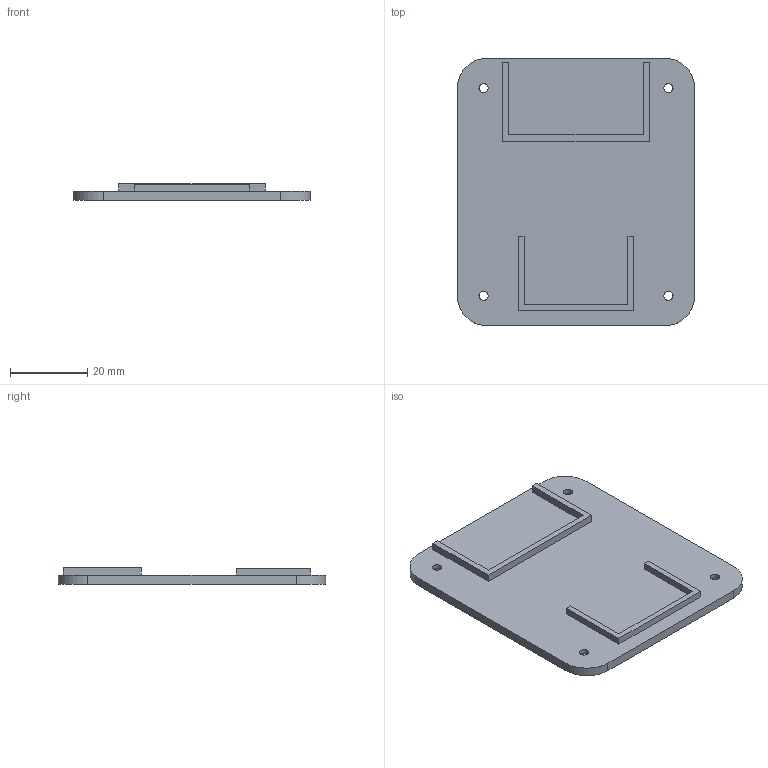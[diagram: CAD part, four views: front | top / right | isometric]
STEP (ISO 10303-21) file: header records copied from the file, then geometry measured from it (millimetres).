
FILE_DESCRIPTION(('Open CASCADE Model'),'2;1');
FILE_NAME('Open CASCADE Shape Model','2026-08-12T19:00:24',('Author'),( 'Open CASCADE'),'Open CASCADE STEP processor 7.9','Open CASCADE 7.9' ,'Unknown');
FILE_SCHEMA(('AUTOMOTIVE_DESIGN { 1 0 10303 214 1 1 1 1 }'));
Length unit declared in the file: millimetre
Products named in the file (1): Open CASCADE STEP translator 7.9 2
Bounding box: 61.55 x 69.55 x 4.4 mm (x, y, z)
Volume: 10360 mm3; surface area: 9710.6 mm2
Topology: 1 solids, 1 shells, 48 faces, 114 edges, 76 vertices
Faces by surface type: plane 32, cylinder 16
Full cylindrical faces by diameter (mm): 2.4 x4, 4.3 x4, 10.4 x2
Entity records: 2938 total; most frequent: CARTESIAN_POINT 593, DIRECTION 440, LINE 252, VECTOR 252, ORIENTED_EDGE 228, PCURVE 228, DEFINITIONAL_REPRESENTATION 228, EDGE_CURVE 114
